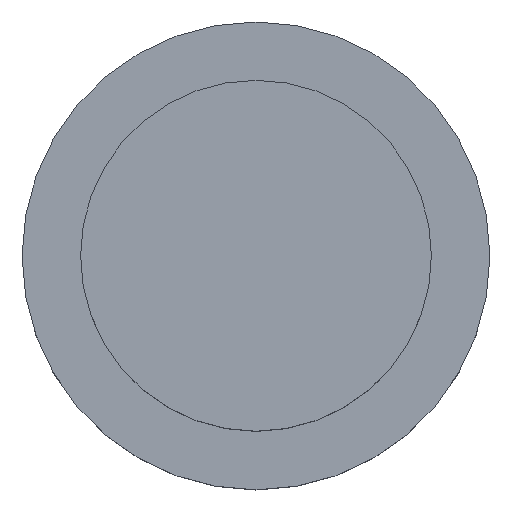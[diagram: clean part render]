
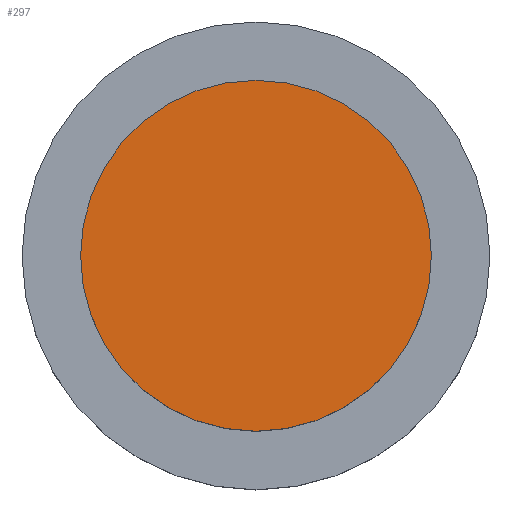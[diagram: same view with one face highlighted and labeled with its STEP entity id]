
A CAD part, top view. The second image highlights one B-rep face of the part: STEP entity #297.
In plain terms, the highlighted planar face has unit normal (0, 0, 1).
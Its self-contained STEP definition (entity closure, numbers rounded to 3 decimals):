
#231 = CYLINDRICAL_SURFACE('',#232,1.5);
#232 = AXIS2_PLACEMENT_3D('',#233,#234,#235);
#233 = CARTESIAN_POINT('',(0.,0.,7.6));
#234 = DIRECTION('',(-0.,-0.,-1.));
#235 = DIRECTION('',(1.,0.,0.));
#248 = VERTEX_POINT('',#249);
#249 = CARTESIAN_POINT('',(1.5,0.,8.6));
#270 = EDGE_CURVE('',#248,#248,#271,.T.);
#271 = SURFACE_CURVE('',#272,(#277,#284),.PCURVE_S1.);
#272 = CIRCLE('',#273,1.5);
#273 = AXIS2_PLACEMENT_3D('',#274,#275,#276);
#274 = CARTESIAN_POINT('',(0.,0.,8.6));
#275 = DIRECTION('',(0.,0.,1.));
#276 = DIRECTION('',(1.,0.,0.));
#277 = PCURVE('',#231,#278);
#278 = DEFINITIONAL_REPRESENTATION('',(#279),#283);
#279 = LINE('',#280,#281);
#280 = CARTESIAN_POINT('',(-0.,-1.));
#281 = VECTOR('',#282,1.);
#282 = DIRECTION('',(-1.,0.));
#283 = ( GEOMETRIC_REPRESENTATION_CONTEXT(2) 
PARAMETRIC_REPRESENTATION_CONTEXT() REPRESENTATION_CONTEXT('2D SPACE',''
  ) );
#284 = PCURVE('',#285,#290);
#285 = PLANE('',#286);
#286 = AXIS2_PLACEMENT_3D('',#287,#288,#289);
#287 = CARTESIAN_POINT('',(0.,0.,8.6));
#288 = DIRECTION('',(0.,0.,1.));
#289 = DIRECTION('',(1.,0.,-0.));
#290 = DEFINITIONAL_REPRESENTATION('',(#291),#295);
#291 = CIRCLE('',#292,1.5);
#292 = AXIS2_PLACEMENT_2D('',#293,#294);
#293 = CARTESIAN_POINT('',(0.,0.));
#294 = DIRECTION('',(1.,0.));
#295 = ( GEOMETRIC_REPRESENTATION_CONTEXT(2) 
PARAMETRIC_REPRESENTATION_CONTEXT() REPRESENTATION_CONTEXT('2D SPACE',''
  ) );
#297 = ADVANCED_FACE('',(#298),#285,.T.);
#298 = FACE_BOUND('',#299,.T.);
#299 = EDGE_LOOP('',(#300));
#300 = ORIENTED_EDGE('',*,*,#270,.T.);
